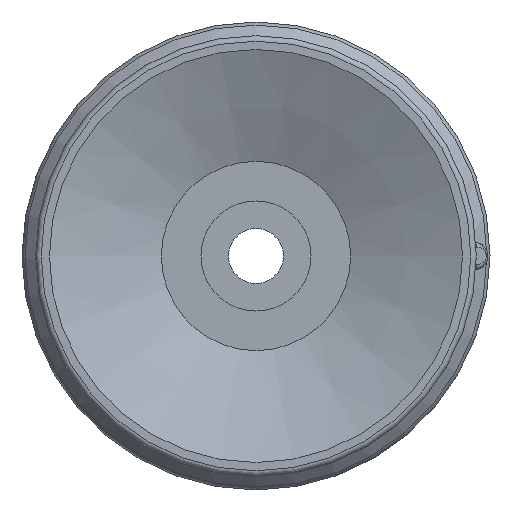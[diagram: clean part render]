
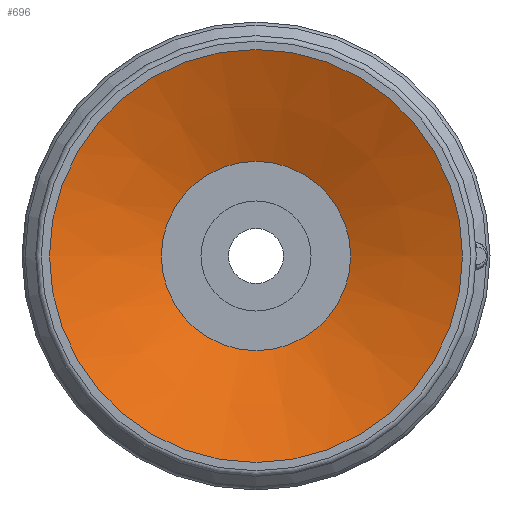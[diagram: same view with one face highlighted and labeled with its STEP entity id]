
A CAD part, front view. The second image highlights one B-rep face of the part: STEP entity #696.
In plain terms, the highlighted conical face has half-angle 67.5 degrees and reference radius 3.437 mm.
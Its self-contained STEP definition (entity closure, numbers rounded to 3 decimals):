
#696=ADVANCED_FACE('',(#1008,#1009),#1010,.F.);
#1008=FACE_BOUND('',#2426,.T.);
#1009=FACE_OUTER_BOUND('',#2427,.T.);
#1010=CONICAL_SURFACE('',#2428,3.437,1.178);
#2426=EDGE_LOOP('',(#3472));
#2427=EDGE_LOOP('',(#3473));
#2428=AXIS2_PLACEMENT_3D('',#3474,#3475,#3476);
#3472=ORIENTED_EDGE('',*,*,#4046,.F.);
#3473=ORIENTED_EDGE('',*,*,#4047,.T.);
#3474=CARTESIAN_POINT('',(0.0,0.0,1.683));
#3475=DIRECTION('',(0.0,0.,-1.0));
#3476=DIRECTION('',(0.0,1.0,0.));
#4046=EDGE_CURVE('',#4480,#4480,#4481,.T.);
#4047=EDGE_CURVE('',#4482,#4482,#4483,.T.);
#4480=VERTEX_POINT('',#5531);
#4481=CIRCLE('',#5532,3.437);
#4482=VERTEX_POINT('',#5533);
#4483=CIRCLE('',#5534,7.5);
#5531=CARTESIAN_POINT('',(-3.437,0.0,1.683));
#5532=AXIS2_PLACEMENT_3D('',#6286,#6287,#6288);
#5533=CARTESIAN_POINT('',(-7.5,0.0,0.));
#5534=AXIS2_PLACEMENT_3D('',#6289,#6290,#6291);
#6286=CARTESIAN_POINT('',(0.0,0.0,1.683));
#6287=DIRECTION('',(0.0,0.,-1.0));
#6288=DIRECTION('',(0.0,1.0,0.));
#6289=CARTESIAN_POINT('',(0.0,0.0,0.));
#6290=DIRECTION('',(0.0,0.,-1.0));
#6291=DIRECTION('',(0.0,1.0,0.));
